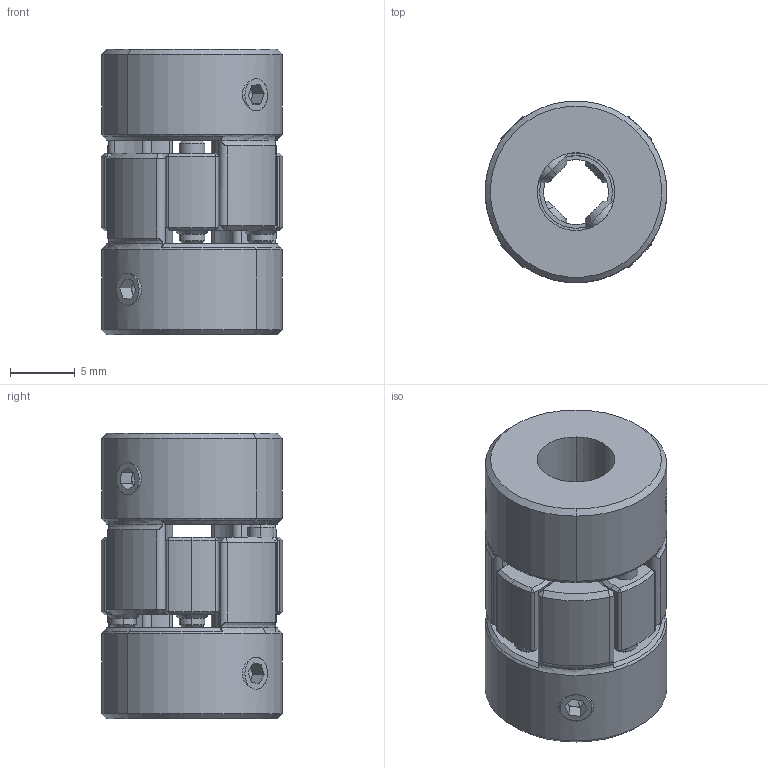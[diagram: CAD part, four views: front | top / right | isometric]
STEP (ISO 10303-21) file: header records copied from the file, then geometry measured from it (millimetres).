
FILE_DESCRIPTION (( 'STEP AP203' ), '1' );
FILE_NAME ('LF-D-D14L22-5-6.STEP', '2021-10-26T05:40:25', ( '' ), ( '' ), 'SwSTEP 2.0', 'SolidWorks 2018', '' );
FILE_SCHEMA (( 'CONFIG_CONTROL_DESIGN' ));
Length unit declared in the file: millimetre
Products named in the file (1): LF-D-D14L22-5-6
Bounding box: 14 x 14 x 22 mm (x, y, z)
Volume: 2642 mm3; surface area: 2159.3 mm2
Topology: 1 solids, 1 shells, 353 faces, 887 edges, 512 vertices
Faces by surface type: cone 164, cylinder 115, plane 66, torus 8
Entity records: 10839 total; most frequent: CARTESIAN_POINT 2244, DIRECTION 1927, ORIENTED_EDGE 1726, EDGE_CURVE 863, AXIS2_PLACEMENT_3D 776, VERTEX_POINT 512, CIRCLE 422, EDGE_LOOP 383
